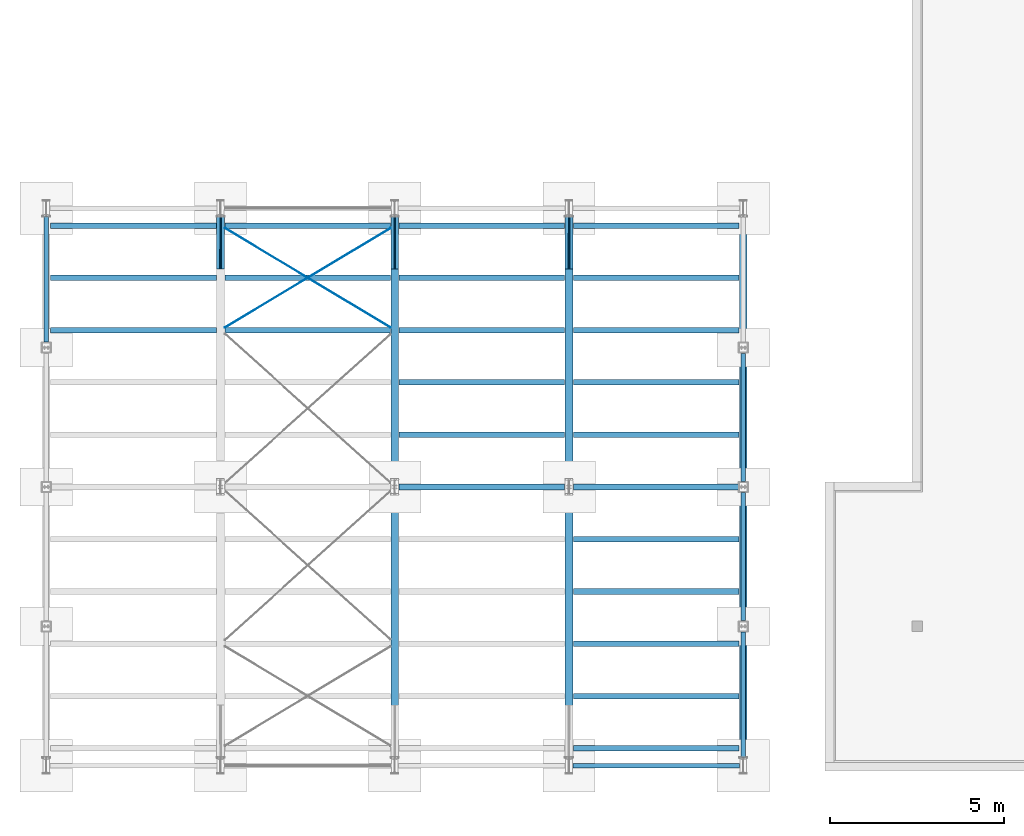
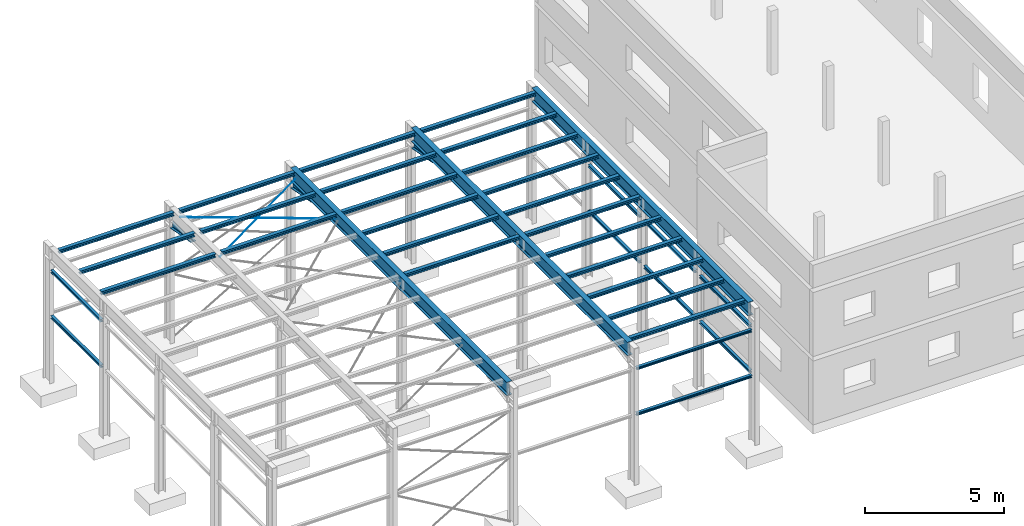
# Not in any storey, part 4 of 50: 38 beams, 3 members, 23 openings.
"""IFC4 model written with IfcOpenShell, lengths in metres."""

import ifcopenshell
import ifcopenshell.guid

model = None  # the IFC model being written
_history = None  # IfcOwnerHistory: only IFC2X3 demands one
_inside = {}  # id of a spatial element -> (the spatial element, [elements in it])
_under = {}  # id of a project, library or spatial element -> (it, [spatial elements below it])
_declared = {}  # id of a project -> (the project, [libraries it declares])
_typed = {}  # id of a type object -> (the type object, [elements of that type])
_made_of = {}  # id of a material, layer set ... -> (it, [elements and type objects made of it])


def new_model(schema):
    """Start an empty IFC model of exactly this schema.

    Asked for "IFC4X3", IfcOpenShell would pick the latest addendum, in which some entities
    have other attributes; the version numbers below select the first issue.
    IFC2X3 requires an IfcOwnerHistory on every rooted entity: one is made here for all.
    """
    global model, _history
    if schema == "IFC4X3":
        model = ifcopenshell.file(schema_version=(4, 3, 0, 0))
    else:
        model = ifcopenshell.file(schema=schema)
    _inside.clear()
    _under.clear()
    _declared.clear()
    _typed.clear()
    _made_of.clear()
    _history = None
    if model.schema == "IFC2X3":
        org = make("IfcOrganization", Name="unknown")
        user = make(
            "IfcPersonAndOrganization",
            ThePerson=make("IfcPerson", FamilyName="unknown"),
            TheOrganization=org,
        )
        app = make(
            "IfcApplication",
            ApplicationDeveloper=org,
            Version="unknown",
            ApplicationFullName="unknown",
            ApplicationIdentifier="unknown",
        )
        _history = make(
            "IfcOwnerHistory",
            OwningUser=user,
            OwningApplication=app,
            ChangeAction="ADDED",
            CreationDate=0,
        )
    return model


def make(cls, **values):
    """One entity of the class cls with the attributes given. An attribute that is None is left unset."""
    return model.create_entity(
        cls, **{name: value for name, value in values.items() if value is not None}
    )


def entity(cls, *values):
    """Any entity or typed value of the class cls, its attributes in the order of the schema. None: left unset."""
    e = model.create_entity(cls)
    for i, value in enumerate(values):
        if value is not None:
            e[i] = value
    return e


def rooted(cls, **values):
    """An entity with a GlobalId (a new one), such as an element, a storey or a relation."""
    return make(cls, GlobalId=ifcopenshell.guid.new(), OwnerHistory=_history, **values)


def si_unit(unit_type, name, prefix=None):
    """IfcSIUnit, for example si_unit("LENGTHUNIT", "METRE", prefix="MILLI")."""
    return make("IfcSIUnit", UnitType=unit_type, Prefix=prefix, Name=name)


def converted_unit(unit_type, name, factor, base, dimensions=None, offset=None):
    """IfcConversionBasedUnit, such as the inch: factor (a typed value) times the base unit."""
    return make(
        "IfcConversionBasedUnit"
        if offset is None
        else "IfcConversionBasedUnitWithOffset",
        ConversionOffset=offset,
        Dimensions=None
        if dimensions is None
        else entity("IfcDimensionalExponents", *dimensions),
        UnitType=unit_type,
        Name=name,
        ConversionFactor=make(
            "IfcMeasureWithUnit", ValueComponent=factor, UnitComponent=base
        ),
    )


def derived_unit(unit_type, elements):
    """IfcDerivedUnit: a product of units, each with its exponent."""
    return make(
        "IfcDerivedUnit",
        Elements=[
            make("IfcDerivedUnitElement", Unit=unit, Exponent=power)
            for unit, power in elements
        ],
        UnitType=unit_type,
    )


def assignment(units):
    """IfcUnitAssignment: the units of a project."""
    return None if units is None else make("IfcUnitAssignment", Units=units)


def point(xyz):
    """IfcCartesianPoint."""
    return None if xyz is None else make("IfcCartesianPoint", Coordinates=xyz)


def direction(xyz):
    """IfcDirection."""
    return None if xyz is None else make("IfcDirection", DirectionRatios=xyz)


def frame(location, z_axis=None, x_axis=None):
    """IfcAxis2Placement3D, a coordinate frame: its origin and axes. An axis left out is left unset."""
    return make(
        "IfcAxis2Placement3D",
        Location=point(location),
        Axis=direction(z_axis),
        RefDirection=direction(x_axis),
    )


def frame_2d(location, x_axis=None):
    """IfcAxis2Placement2D, a coordinate frame in the plane: its origin and x axis."""
    return make(
        "IfcAxis2Placement2D", Location=point(location), RefDirection=direction(x_axis)
    )


def origin():
    """The frame at (0, 0, 0) with its axes left unset."""
    return frame((0.0, 0.0, 0.0))


def origin_2d():
    """The frame at (0, 0) in the plane with its x axis left unset."""
    return frame_2d((0.0, 0.0))


def place(relative_to, where):
    """IfcLocalPlacement: puts the frame where relative to a parent placement (None: the world)."""
    return make(
        "IfcLocalPlacement", PlacementRelTo=relative_to, RelativePlacement=where
    )


def context(
    kind, dimensions, precision=None, world=None, true_north=None, identifier=None
):
    """IfcGeometricRepresentationContext, for example the 3D "Model" context."""
    return make(
        "IfcGeometricRepresentationContext",
        ContextIdentifier=identifier,
        ContextType=kind,
        CoordinateSpaceDimension=dimensions,
        Precision=precision,
        WorldCoordinateSystem=world,
        TrueNorth=true_north,
    )


def subcontext(parent, identifier, kind, view, scale=None):
    """IfcGeometricRepresentationSubContext, for example "Body" below "Model"."""
    return make(
        "IfcGeometricRepresentationSubContext",
        ContextIdentifier=identifier,
        ContextType=kind,
        ParentContext=parent,
        TargetScale=scale,
        TargetView=view,
    )


def project(units=None, contexts=None):
    """IfcProject with its units and contexts."""
    return rooted(
        "IfcProject",
        Name="project",
        RepresentationContexts=contexts,
        UnitsInContext=assignment(units),
    )


def spatial(cls, under=None, at=None, **own):
    """A site, building, storey or space (cls), placed at a placement, below another one or the project."""
    s = rooted(cls, ObjectPlacement=at, **own)
    if under is not None:
        _under.setdefault(under.id(), (under, []))[1].append(s)
    return s


def polyline(points):
    """IfcPolyline through the points."""
    return make("IfcPolyline", Points=[point(p) for p in points])


def point_list(points):
    """IfcCartesianPointList2D or 3D."""
    cls = (
        "IfcCartesianPointList2D" if len(points[0]) == 2 else "IfcCartesianPointList3D"
    )
    return make(cls, CoordList=points)


def line(*indices):
    """IfcLineIndex: a straight run through numbered points of an indexed curve."""
    return model.create_entity("IfcLineIndex", indices)


def arc(*indices):
    """IfcArcIndex: an arc through three numbered points of an indexed curve."""
    return model.create_entity("IfcArcIndex", indices)


def indexed_curve(points, segments=None, self_intersect=None):
    """IfcIndexedPolyCurve: lines and arcs through numbered points (the first is 1)."""
    return make(
        "IfcIndexedPolyCurve",
        Points=point_list(points),
        Segments=segments,
        SelfIntersect=self_intersect,
    )


def profile(cls, at=None, kind="AREA", **sizes):
    """A parametric profile (cls). Its sizes go by their IFC names, for example OverallWidth=200.0."""
    return make(cls, ProfileType=kind, Position=at, **sizes)


def circle(**sizes):
    """IfcCircleProfileDef."""
    return profile("IfcCircleProfileDef", **sizes)


def i_section(**sizes):
    """IfcIShapeProfileDef."""
    return profile("IfcIShapeProfileDef", **sizes)


def outline(outer, holes=None, kind="AREA"):
    """IfcArbitraryClosedProfileDef: a profile drawn as a closed curve; with holes, ...WithVoids."""
    if holes is None:
        return make("IfcArbitraryClosedProfileDef", ProfileType=kind, OuterCurve=outer)
    return make(
        "IfcArbitraryProfileDefWithVoids",
        ProfileType=kind,
        OuterCurve=outer,
        InnerCurves=holes,
    )


def extrude(swept, where, along, depth):
    """IfcExtrudedAreaSolid: the profile swept, set in the frame where, extruded along a direction by depth."""
    return make(
        "IfcExtrudedAreaSolid",
        SweptArea=swept,
        Position=where,
        ExtrudedDirection=direction(along),
        Depth=depth,
    )


def clip(a, b, op="DIFFERENCE"):
    """IfcBooleanClippingResult: the solid a cut by the half space b."""
    return make(
        "IfcBooleanClippingResult", Operator=op, FirstOperand=a, SecondOperand=b
    )


def halfspace(plane, agree):
    """IfcHalfSpaceSolid: all space on one side of the plane z = 0 of the frame plane."""
    return make(
        "IfcHalfSpaceSolid",
        BaseSurface=make("IfcPlane", Position=plane),
        AgreementFlag=agree,
    )


def shape(context_of_items, identifier, shape_type, items):
    """IfcShapeRepresentation: the items that make up one representation, for example the "Body"."""
    return make(
        "IfcShapeRepresentation",
        ContextOfItems=context_of_items,
        RepresentationIdentifier=identifier,
        RepresentationType=shape_type,
        Items=items,
    )


def source(mapping_origin, context_of_items, identifier, shape_type, items):
    """IfcRepresentationMap: a shape defined once, which mapped items show again and again."""
    return make(
        "IfcRepresentationMap",
        MappingOrigin=mapping_origin,
        MappedRepresentation=shape(context_of_items, identifier, shape_type, items),
    )


def transform(
    local_origin,
    x_axis=None,
    y_axis=None,
    z_axis=None,
    scale=None,
    scale2=None,
    scale3=None,
    uniform=True,
):
    """IfcCartesianTransformationOperator3D, or its non-uniform kind. x_axis, y_axis, z_axis: its Axis1, 2, 3."""
    if uniform:
        return make(
            "IfcCartesianTransformationOperator3D",
            Axis1=direction(x_axis),
            Axis2=direction(y_axis),
            LocalOrigin=point(local_origin),
            Scale=scale,
            Axis3=direction(z_axis),
        )
    return make(
        "IfcCartesianTransformationOperator3DnonUniform",
        Axis1=direction(x_axis),
        Axis2=direction(y_axis),
        LocalOrigin=point(local_origin),
        Scale=scale,
        Axis3=direction(z_axis),
        Scale2=scale2,
        Scale3=scale3,
    )


def mapped(mapping_source, mapping_target):
    """IfcMappedItem: shows the shape of a source again, moved by a transform."""
    return make(
        "IfcMappedItem", MappingSource=mapping_source, MappingTarget=mapping_target
    )


def material(Name=None, Category=None):
    """IfcMaterial."""
    return make("IfcMaterial", Name=Name, Category=Category)


def made_of(thing, what):
    """Note that an element or type object is made of a material, layer set ...; save() writes the relation."""
    if what is not None:
        _made_of.setdefault(what.id(), (what, []))[1].append(thing)
    return thing


def type_object(cls, material=None, **own):
    """A type object (cls), such as IfcWallType, which elements share."""
    return made_of(rooted(cls, **own), material)


def type_shapes(of_type, sources):
    """Give a type object the sources (RepresentationMaps) that its elements show as mapped items."""
    of_type.RepresentationMaps = sources


def element(
    cls,
    number,
    at=None,
    inside=None,
    cuts=None,
    type_object=None,
    material=None,
    context=None,
    identifier="Body",
    shape_type=None,
    held_by="IfcProductDefinitionShape",
    body=None,
    shapes=None,
    **own,
):
    """One element of the class cls, such as IfcWall. Its Tag is "e" and its number.

    at: its placement. inside: the storey or other place that contains it. cuts: it is an
    opening in that element (IfcRelVoidsElement). A single representation is given by context,
    identifier, shape_type and body (its items); several are given by shapes. held_by: the class
    of the entity that holds the representations. save() writes the other relations.
    """
    e = rooted(cls, Tag="e%d" % number, ObjectPlacement=at, **own)
    if body is not None:
        shapes = [shape(context, identifier, shape_type, body)]
    if shapes is not None:
        e.Representation = make(held_by, Representations=shapes)
    if inside is not None:
        _inside.setdefault(inside.id(), (inside, []))[1].append(e)
    if cuts is not None:
        rooted(
            "IfcRelVoidsElement", RelatingBuildingElement=cuts, RelatedOpeningElement=e
        )
    if type_object is not None:
        _typed.setdefault(type_object.id(), (type_object, []))[1].append(e)
    return made_of(e, material)


def aggregate(whole, parts):
    """IfcRelAggregates: a whole, such as a stair, and the parts it consists of."""
    return rooted("IfcRelAggregates", RelatingObject=whole, RelatedObjects=parts)


def save(model, path):
    """Write the relations noted so far, then the file.

    IfcRelAggregates (storeys below a building ...), IfcRelContainedInSpatialStructure (elements
    in a storey), IfcRelDefinesByType, IfcRelAssociatesMaterial and IfcRelDeclares: one each for
    every whole, place, type object, material and project.
    """
    for whole, parts in _under.values():
        aggregate(whole, parts)
    for where, things in _inside.values():
        rooted(
            "IfcRelContainedInSpatialStructure",
            RelatedElements=things,
            RelatingStructure=where,
        )
    for kind, things in _typed.values():
        rooted("IfcRelDefinesByType", RelatedObjects=things, RelatingType=kind)
    for what, things in _made_of.values():
        rooted("IfcRelAssociatesMaterial", RelatedObjects=things, RelatingMaterial=what)
    for by, libraries in _declared.values():
        rooted("IfcRelDeclares", RelatingContext=by, RelatedDefinitions=libraries)
    model.write(path)


model = new_model("IFC4")

# Units and contexts
model_context = context("Model", 3, precision=1e-05, world=origin(), true_north=direction((6.123233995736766e-17, 1.0)))
body_context = subcontext(model_context, "Body", "Model", "MODEL_VIEW")
ifc_project = project(units=[si_unit("LENGTHUNIT", "METRE"), si_unit("AREAUNIT", "SQUARE_METRE"), converted_unit("PLANEANGLEUNIT", "DEGREE", entity("IfcPlaneAngleMeasure", 0.017453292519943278), si_unit("PLANEANGLEUNIT", "RADIAN"), dimensions=[0, 0, 0, 0, 0, 0, 0]), si_unit("VOLUMEUNIT", "CUBIC_METRE"), derived_unit("THERMALTRANSMITTANCEUNIT", [(si_unit("MASSUNIT", "GRAM", prefix="KILO"), 1), (si_unit("THERMODYNAMICTEMPERATUREUNIT", "KELVIN"), -1), (si_unit("TIMEUNIT", "SECOND"), -3)])], contexts=[model_context])

# Site
site_placement = place(None, origin())
site = spatial("IfcSite", under=ifc_project, at=site_placement, Name="Default", CompositionType="ELEMENT")

# Beams
ifc_material = material(Name="Metall - Baustahl S235", Category="Metall")
beam_type_1 = type_object("IfcBeamType", Name="HEA Träger:HEA 120", PredefinedType="BEAM", material=ifc_material)
shared_shape_1 = source(origin(), body_context, "Body", "SweptSolid", [
    extrude(outline(indexed_curve([(-0.060000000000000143, -0.04899999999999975), (-0.060000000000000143, -0.05700000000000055), (0.06000000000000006, -0.05700000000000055), (0.06000000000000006, -0.04899999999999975), (0.01449999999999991, -0.04899999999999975), (0.006014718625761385, -0.04548528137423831), (0.002499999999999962, -0.036999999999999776), (0.002499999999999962, 0.037000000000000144), (0.00601471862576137, 0.04548528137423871), (0.014499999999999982, 0.049000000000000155), (0.06000000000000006, 0.049000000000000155), (0.06000000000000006, 0.05699999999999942), (-0.05999999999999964, 0.05699999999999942), (-0.05999999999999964, 0.049000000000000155), (-0.014500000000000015, 0.049000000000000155), (-0.0060147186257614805, 0.04548528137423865), (-0.002500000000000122, 0.03700000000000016), (-0.002500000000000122, -0.03699999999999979), (-0.006014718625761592, -0.045485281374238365), (-0.014500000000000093, -0.04899999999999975)], segments=[line(1, 2, 3, 4, 5), arc(5, 6, 7), line(7, 8), arc(8, 9, 10), line(10, 11, 12, 13, 14, 15), arc(15, 16, 17), line(17, 18), arc(18, 19, 20), line(20, 1)], self_intersect=False)), frame((-2.392300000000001, 0.0, 0.0), z_axis=(-1.0, 0.0, 0.0), x_axis=(0.0, -1.0, 0.0)), (0.0, 0.0, -1.0), 4.784600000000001),
])
type_shapes(beam_type_1, [shared_shape_1])
for number, where in (
    (1, (20.690144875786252, 1.9297675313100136, 2.9429999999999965)),
    (2, (20.690144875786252, 1.9297675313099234, 4.942999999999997)),
):
    element("IfcBeam", number, at=place(site_placement, frame(where)), inside=site, type_object=beam_type_1, material=ifc_material, Name="HEA Träger:HEA 120", ObjectType="HEA Träger:HEA 120", PredefinedType="BEAM", context=body_context, shape_type="MappedRepresentation", body=[
        mapped(shared_shape_1, transform((0.0, 0.0, 0.0), scale=1.0)),
    ])
beam_type_2 = type_object("IfcBeamType", Name="HEA Träger:HEA 120", PredefinedType="BEAM", material=ifc_material)
shared_shape_2 = source(origin(), body_context, "Body", "SweptSolid", [
    extrude(outline(indexed_curve([(-0.060000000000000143, -0.04899999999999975), (-0.060000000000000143, -0.05700000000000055), (0.06000000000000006, -0.05700000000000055), (0.06000000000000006, -0.04899999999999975), (0.01449999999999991, -0.04899999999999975), (0.006014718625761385, -0.04548528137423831), (0.002499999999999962, -0.036999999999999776), (0.002499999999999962, 0.037000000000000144), (0.00601471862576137, 0.04548528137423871), (0.014499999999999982, 0.049000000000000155), (0.06000000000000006, 0.049000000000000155), (0.06000000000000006, 0.05699999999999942), (-0.05999999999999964, 0.05699999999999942), (-0.05999999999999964, 0.049000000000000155), (-0.014500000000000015, 0.049000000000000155), (-0.0060147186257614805, 0.04548528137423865), (-0.002500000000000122, 0.03700000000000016), (-0.002500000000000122, -0.03699999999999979), (-0.006014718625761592, -0.045485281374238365), (-0.014500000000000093, -0.04899999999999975)], segments=[line(1, 2, 3, 4, 5), arc(5, 6, 7), line(7, 8), arc(8, 9, 10), line(10, 11, 12, 13, 14, 15), arc(15, 16, 17), line(17, 18), arc(18, 19, 20), line(20, 1)], self_intersect=False)), frame((-1.7623000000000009, 0.0, 0.0), z_axis=(-1.0, 0.0, 0.0), x_axis=(0.0, -1.0, 0.0)), (0.0, 0.0, -1.0), 3.5996000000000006),
])
type_shapes(beam_type_2, [shared_shape_2])
for number, where, z_axis, x_axis in (
    (3, (23.190144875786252, 3.929767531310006, 2.9429999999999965), (0.0, 0.0, 1.0), (0.0, 1.0, 0.0)),
    (4, (3.1901448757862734, 15.929767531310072, 2.9429999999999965), (0.0, 0.0, 1.0), (0.0, -1.0, 0.0)),
    (5, (3.1901448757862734, 15.929767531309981, 4.942999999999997), (0.0, 0.0, 1.0), (0.0, -1.0, 0.0)),
    (6, (23.190144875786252, 3.929767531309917, 4.942999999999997), (0.0, 0.0, 1.0), (0.0, 1.0, 0.0)),
):
    element("IfcBeam", number, at=place(site_placement, frame(where, z_axis=z_axis, x_axis=x_axis)), inside=site, type_object=beam_type_2, material=ifc_material, Name="HEA Träger:HEA 120", ObjectType="HEA Träger:HEA 120", PredefinedType="BEAM", context=body_context, shape_type="MappedRepresentation", body=[
        mapped(shared_shape_2, transform((0.0, 0.0, 0.0), scale=1.0)),
    ])
beam_type_3 = type_object("IfcBeamType", Name="HEA Träger:HEA 120", PredefinedType="BEAM", material=ifc_material)
shared_shape_3 = source(origin(), body_context, "Body", "SweptSolid", [
    extrude(outline(indexed_curve([(-0.060000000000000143, -0.04899999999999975), (-0.060000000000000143, -0.05700000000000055), (0.06000000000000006, -0.05700000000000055), (0.06000000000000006, -0.04899999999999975), (0.01449999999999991, -0.04899999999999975), (0.006014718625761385, -0.04548528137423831), (0.002499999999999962, -0.036999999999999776), (0.002499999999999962, 0.037000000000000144), (0.00601471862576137, 0.04548528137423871), (0.014499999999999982, 0.049000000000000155), (0.06000000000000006, 0.049000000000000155), (0.06000000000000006, 0.05699999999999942), (-0.05999999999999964, 0.05699999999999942), (-0.05999999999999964, 0.049000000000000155), (-0.014500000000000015, 0.049000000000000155), (-0.0060147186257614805, 0.04548528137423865), (-0.002500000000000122, 0.03700000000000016), (-0.002500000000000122, -0.03699999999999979), (-0.006014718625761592, -0.045485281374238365), (-0.014500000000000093, -0.04899999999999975)], segments=[line(1, 2, 3, 4, 5), arc(5, 6, 7), line(7, 8), arc(8, 9, 10), line(10, 11, 12, 13, 14, 15), arc(15, 16, 17), line(17, 18), arc(18, 19, 20), line(20, 1)], self_intersect=False)), frame((-1.8372999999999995, 0.0, 0.0), z_axis=(-1.0, 0.0, 0.0), x_axis=(0.0, -1.0, 0.0)), (0.0, 0.0, -1.0), 3.6746000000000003),
])
type_shapes(beam_type_3, [shared_shape_3])
for number, where, z_axis, x_axis in (
    (7, (23.190144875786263, 7.929767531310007, 2.9429999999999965), (0.0, 0.0, 1.0), (0.0, 1.0, 0.0)),
    (8, (23.19014487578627, 11.92976753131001, 2.9429999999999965), (0.0, 0.0, 1.0), (0.0, 1.0, 0.0)),
    (9, (23.190144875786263, 7.929767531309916, 4.942999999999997), (0.0, 0.0, 1.0), (0.0, 1.0, 0.0)),
    (10, (23.190144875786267, 11.929767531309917, 4.942999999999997), (0.0, 0.0, 1.0), (0.0, 1.0, 0.0)),
):
    element("IfcBeam", number, at=place(site_placement, frame(where, z_axis=z_axis, x_axis=x_axis)), inside=site, type_object=beam_type_3, material=ifc_material, Name="HEA Träger:HEA 120", ObjectType="HEA Träger:HEA 120", PredefinedType="BEAM", context=body_context, shape_type="MappedRepresentation", body=[
        mapped(shared_shape_3, transform((0.0, 0.0, 0.0), scale=1.0)),
    ])
beam_type_4 = type_object("IfcBeamType", Name="HEA Träger:HEA 160", PredefinedType="JOIST", material=ifc_material)
shared_shape_4 = source(origin(), body_context, "Body", "SweptSolid", [
    extrude(outline(indexed_curve([(-0.08000000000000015, -0.06699999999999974), (-0.08000000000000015, -0.07600000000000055), (0.08000000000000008, -0.07600000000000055), (0.08000000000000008, -0.06699999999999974), (0.01799999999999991, -0.06699999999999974), (0.007393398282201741, -0.06260660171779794), (0.002999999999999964, -0.051999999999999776), (0.0029999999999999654, 0.05200000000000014), (0.0073933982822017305, 0.06260660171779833), (0.017999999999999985, 0.06700000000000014), (0.08000000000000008, 0.06700000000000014), (0.08000000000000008, 0.07599999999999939), (-0.07999999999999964, 0.07599999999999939), (-0.07999999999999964, 0.06700000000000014), (-0.017999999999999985, 0.06700000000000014), (-0.007393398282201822, 0.06260660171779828), (-0.0030000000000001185, 0.05200000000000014), (-0.0030000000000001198, -0.051999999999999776), (-0.007393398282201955, -0.062606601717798), (-0.018000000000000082, -0.06699999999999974)], segments=[line(1, 2, 3, 4, 5), arc(5, 6, 7), line(7, 8), arc(8, 9, 10), line(10, 11, 12, 13, 14, 15), arc(15, 16, 17), line(17, 18), arc(18, 19, 20), line(20, 1)], self_intersect=False)), frame((-2.377300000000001, 0.0, 0.0), z_axis=(-1.0, 0.0, 0.0), x_axis=(0.0, -1.0, 0.0)), (0.0, 0.0, -1.0), 4.754600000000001),
])
type_shapes(beam_type_4, [shared_shape_4])
for number, where in (
    (11, (20.690144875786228, 2.4297675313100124, 5.923999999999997)),
    (12, (20.69014487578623, 3.929767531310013, 5.923999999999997)),
    (13, (20.69014487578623, 5.429767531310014, 5.923999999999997)),
    (14, (20.69014487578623, 6.929767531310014, 5.923999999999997)),
    (15, (20.69014487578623, 8.429767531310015, 5.923999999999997)),
    (16, (15.690144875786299, 9.929767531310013, 5.923999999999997)),
    (17, (20.69014487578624, 9.929767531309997, 5.923999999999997)),
):
    element("IfcBeam", number, at=place(site_placement, frame(where)), inside=site, type_object=beam_type_4, material=ifc_material, Name="HEA Träger:HEA 160", ObjectType="HEA Träger:HEA 160", PredefinedType="JOIST", context=body_context, shape_type="MappedRepresentation", body=[
        mapped(shared_shape_4, transform((0.0, 0.0, 0.0), scale=1.0)),
    ])
beam_type_5 = type_object("IfcBeamType", Name="HEA Träger:HEA 160", PredefinedType="JOIST", material=ifc_material)
shared_shape_5 = source(origin(), body_context, "Body", "SweptSolid", [
    extrude(outline(indexed_curve([(0.06699999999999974, -0.08000000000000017), (0.07600000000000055, -0.08000000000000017), (0.07600000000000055, 0.08000000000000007), (0.06699999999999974, 0.08000000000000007), (0.06699999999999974, 0.017999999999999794), (0.06260660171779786, 0.0073933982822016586), (0.051999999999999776, 0.0029999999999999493), (-0.052000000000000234, 0.0029999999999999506), (-0.0626066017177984, 0.007393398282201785), (-0.06700000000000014, 0.017999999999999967), (-0.06700000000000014, 0.08000000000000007), (-0.07599999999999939, 0.08000000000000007), (-0.07599999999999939, -0.07999999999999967), (-0.06700000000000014, -0.07999999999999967), (-0.06700000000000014, -0.017999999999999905), (-0.06260660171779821, -0.007393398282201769), (-0.05200000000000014, -0.003000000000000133), (0.05199999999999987, -0.0030000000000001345), (0.06260660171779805, -0.007393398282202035), (0.06699999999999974, -0.018000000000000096)], segments=[line(1, 2, 3, 4, 5), arc(5, 6, 7), line(7, 8), arc(8, 9, 10), line(10, 11, 12, 13, 14, 15), arc(15, 16, 17), line(17, 18), arc(18, 19, 20), line(20, 1)], self_intersect=False)), frame((-2.377300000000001, 0.0, 0.0), z_axis=(1.0, 0.0, 0.0), x_axis=(0.0, 0.0, -1.0)), (0.0, 0.0, 1.0), 4.7546),
])
type_shapes(beam_type_5, [shared_shape_5])
for number, where in (
    (18, (5.690144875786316, 17.429767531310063, 5.923999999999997)),
    (19, (10.690144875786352, 17.429767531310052, 5.923999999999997)),
    (20, (15.690144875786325, 17.429767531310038, 5.923999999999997)),
    (21, (20.690144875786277, 17.42976753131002, 5.923999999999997)),
    (22, (5.69014487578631, 15.929767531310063, 5.923999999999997)),
    (23, (10.690144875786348, 15.92976753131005, 5.923999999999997)),
    (24, (15.690144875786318, 15.929767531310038, 5.923999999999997)),
    (25, (20.690144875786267, 15.929767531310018, 5.923999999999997)),
    (26, (5.690144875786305, 14.429767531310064, 5.923999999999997)),
    (27, (10.690144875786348, 14.429767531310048, 5.923999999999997)),
    (28, (15.690144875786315, 14.429767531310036, 5.923999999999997)),
    (29, (20.69014487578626, 14.429767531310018, 5.923999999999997)),
    (30, (15.69014487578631, 12.929767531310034, 5.923999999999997)),
    (31, (20.690144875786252, 12.929767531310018, 5.923999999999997)),
    (32, (15.690144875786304, 11.429767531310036, 5.923999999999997)),
    (33, (20.690144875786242, 11.429767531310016, 5.923999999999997)),
):
    element("IfcBeam", number, at=place(site_placement, frame(where)), inside=site, type_object=beam_type_5, material=ifc_material, Name="HEA Träger:HEA 160", ObjectType="HEA Träger:HEA 160", PredefinedType="JOIST", context=body_context, shape_type="MappedRepresentation", body=[
        mapped(shared_shape_5, transform((0.0, 0.0, 0.0), scale=1.0)),
    ])
beam_type_6 = type_object("IfcBeamType", Name="Rundstahl Träger:RB 20", PredefinedType="BEAM", material=ifc_material)
shared_shape_6 = source(origin(), body_context, "Body", "SweptSolid", [
    extrude(outline(indexed_curve([(-0.01, 1.6155445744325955e-17), (-7.370224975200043e-17, -0.010000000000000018), (0.01, -1.6155445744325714e-17), (1.3123993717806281e-17, 0.009999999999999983)], segments=[arc(1, 2, 3), arc(3, 4, 1)], self_intersect=False)), frame((-2.7691500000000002, 0.0, 0.0), z_axis=(1.0, 0.0, 0.0), x_axis=(0.0, 1.0, 0.0)), (0.0, 0.0, 1.0), 5.5383000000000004),
])
type_shapes(beam_type_6, [shared_shape_6])
beam_1_placement = place(site_placement, frame((10.690144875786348, 15.931178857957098, 5.699999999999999), z_axis=(0.0, 0.0, 1.0), x_axis=(0.8572793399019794, -0.5148515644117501, 0.0)))
element("IfcBeam", 34, at=beam_1_placement, inside=site, type_object=beam_type_6, material=ifc_material, Name="Rundstahl Träger:RB 20", ObjectType="Rundstahl Träger:RB 20", PredefinedType="BEAM", context=body_context, shape_type="MappedRepresentation", body=[
    mapped(shared_shape_6, transform((0.0, 0.0, 0.0), scale=1.0)),
])
beam_type_7 = type_object("IfcBeamType", Name="Rundstahl Träger:RB 20", PredefinedType="JOIST", material=ifc_material)
shared_shape_7 = source(origin(), body_context, "Body", "SweptSolid", [
    extrude(outline(indexed_curve([(-0.01, 1.6155445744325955e-17), (-7.21052415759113e-17, -0.010000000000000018), (0.01, -1.6155445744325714e-17), (1.4721001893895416e-17, 0.009999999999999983)], segments=[arc(1, 2, 3), arc(3, 4, 1)], self_intersect=False)), frame((-2.7657, 0.0, 0.0), z_axis=(1.0, 0.0, 0.0), x_axis=(0.0, 1.0, 0.0)), (0.0, 0.0, 1.0), 5.536900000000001),
])
type_shapes(beam_type_7, [shared_shape_7])
beam_2_placement = place(site_placement, frame((10.69249487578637, 15.931177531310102, 5.699999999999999), z_axis=(0.0, 0.0, 1.0), x_axis=(-0.8574929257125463, -0.5144957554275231, 0.0)))
element("IfcBeam", 35, at=beam_2_placement, inside=site, type_object=beam_type_7, material=ifc_material, Name="Rundstahl Träger:RB 20", ObjectType="Rundstahl Träger:RB 20", PredefinedType="JOIST", context=body_context, shape_type="MappedRepresentation", body=[
    mapped(shared_shape_7, transform((0.0, 0.0, 0.0), scale=1.0)),
])

# Beam, openings
beam_type_8 = type_object("IfcBeamType", Name="IPE Träger:IPE 600", PredefinedType="BEAM")
beam_3_placement = place(site_placement, frame((13.190144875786, 18.849298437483, 5.7), z_axis=(0.0, 1.0, 0.0), x_axis=(-1.0, 0.0, 0.0)))
beam_3 = element("IfcBeam", 36, at=beam_3_placement, inside=site, type_object=beam_type_8, material=ifc_material, Name="IPE Träger:IPE 600", ObjectType="IPE 600", context=model_context, shape_type="Clipping", body=[
    clip(clip(extrude(i_section(OverallWidth=0.22, OverallDepth=0.6, WebThickness=0.012, FlangeThickness=0.019, FilletRadius=0.024, at=origin_2d()), origin(), (0.0, 0.0, -1.0), 17.839061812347), halfspace(frame((13.190144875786, -5.7, -1.1595319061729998), z_axis=(0.0, 0.0, -1.0), x_axis=(-1.0, 0.0, 0.0)), True)), halfspace(frame((13.190144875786, -5.7, -16.679529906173), z_axis=(0.0, 0.0, 1.0), x_axis=(1.0, 0.0, 0.0)), True)),
])
opening_1_placement = place(beam_3_placement, frame((0.0, -0.3005, -8.919530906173), z_axis=(0.0, 1.0, 0.0), x_axis=(0.0, 0.0, 1.0)))
element("IfcOpeningElement", 37, at=opening_1_placement, cuts=beam_3, ObjectType="Opening", context=model_context, shape_type="SweptSolid", body=[
    extrude(circle(Radius=0.009000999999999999, at=frame_2d((0.0375, 0.05), x_axis=(1.0, 0.0))), origin(), (0.0, 0.0, 1.0), 0.02),
])
opening_2_placement = place(beam_3_placement, frame((0.0, -0.3005, -8.919530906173), z_axis=(0.0, 1.0, 0.0), x_axis=(0.0, 0.0, 1.0)))
element("IfcOpeningElement", 38, at=opening_2_placement, cuts=beam_3, ObjectType="Opening", context=model_context, shape_type="SweptSolid", body=[
    extrude(circle(Radius=0.009000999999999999, at=frame_2d((-0.0375, 0.05), x_axis=(1.0, 0.0))), origin(), (0.0, 0.0, 1.0), 0.02),
])
opening_3_placement = place(beam_3_placement, frame((0.0, -0.3005, -8.919530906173), z_axis=(0.0, 1.0, 0.0), x_axis=(0.0, 0.0, 1.0)))
element("IfcOpeningElement", 39, at=opening_3_placement, cuts=beam_3, ObjectType="Opening", context=model_context, shape_type="SweptSolid", body=[
    extrude(circle(Radius=0.009000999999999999, at=frame_2d((0.0375, -0.05), x_axis=(1.0, 0.0))), origin(), (0.0, 0.0, 1.0), 0.02),
])
opening_4_placement = place(beam_3_placement, frame((0.0, -0.3005, -8.919530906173), z_axis=(0.0, 1.0, 0.0), x_axis=(0.0, 0.0, 1.0)))
element("IfcOpeningElement", 40, at=opening_4_placement, cuts=beam_3, ObjectType="Opening", context=model_context, shape_type="SweptSolid", body=[
    extrude(circle(Radius=0.009000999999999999, at=frame_2d((-0.0375, -0.05), x_axis=(1.0, 0.0))), origin(), (0.0, 0.0, 1.0), 0.02),
])

beam_4_placement = place(site_placement, frame((18.190144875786, 18.849298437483, 5.7), z_axis=(0.0, 1.0, 0.0), x_axis=(-1.0, 0.0, 0.0)))
beam_4 = element("IfcBeam", 41, at=beam_4_placement, inside=site, type_object=beam_type_8, material=ifc_material, Name="IPE Träger:IPE 600", ObjectType="IPE 600", context=model_context, shape_type="Clipping", body=[
    clip(clip(extrude(i_section(OverallWidth=0.22, OverallDepth=0.6, WebThickness=0.012, FlangeThickness=0.019, FilletRadius=0.024, at=origin_2d()), origin(), (0.0, 0.0, -1.0), 17.839061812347), halfspace(frame((18.190144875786, -5.7, -1.1595319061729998), z_axis=(0.0, 0.0, -1.0), x_axis=(-1.0, 0.0, 0.0)), True)), halfspace(frame((18.190144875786, -5.7, -16.679529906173), z_axis=(0.0, 0.0, 1.0), x_axis=(1.0, 0.0, 0.0)), True)),
])
opening_5_placement = place(beam_4_placement, frame((0.0, -0.3005, -8.919530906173), z_axis=(0.0, 1.0, 0.0), x_axis=(0.0, 0.0, 1.0)))
element("IfcOpeningElement", 42, at=opening_5_placement, cuts=beam_4, ObjectType="Opening", context=model_context, shape_type="SweptSolid", body=[
    extrude(circle(Radius=0.009000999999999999, at=frame_2d((0.0375, 0.05), x_axis=(1.0, 0.0))), origin(), (0.0, 0.0, 1.0), 0.02),
])
opening_6_placement = place(beam_4_placement, frame((0.0, -0.3005, -8.919530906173), z_axis=(0.0, 1.0, 0.0), x_axis=(0.0, 0.0, 1.0)))
element("IfcOpeningElement", 43, at=opening_6_placement, cuts=beam_4, ObjectType="Opening", context=model_context, shape_type="SweptSolid", body=[
    extrude(circle(Radius=0.009000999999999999, at=frame_2d((-0.0375, 0.05), x_axis=(1.0, 0.0))), origin(), (0.0, 0.0, 1.0), 0.02),
])
opening_7_placement = place(beam_4_placement, frame((0.0, -0.3005, -8.919530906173), z_axis=(0.0, 1.0, 0.0), x_axis=(0.0, 0.0, 1.0)))
element("IfcOpeningElement", 44, at=opening_7_placement, cuts=beam_4, ObjectType="Opening", context=model_context, shape_type="SweptSolid", body=[
    extrude(circle(Radius=0.009000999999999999, at=frame_2d((0.0375, -0.05), x_axis=(1.0, 0.0))), origin(), (0.0, 0.0, 1.0), 0.02),
])
opening_8_placement = place(beam_4_placement, frame((0.0, -0.3005, -8.919530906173), z_axis=(0.0, 1.0, 0.0), x_axis=(0.0, 0.0, 1.0)))
element("IfcOpeningElement", 45, at=opening_8_placement, cuts=beam_4, ObjectType="Opening", context=model_context, shape_type="SweptSolid", body=[
    extrude(circle(Radius=0.009000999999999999, at=frame_2d((-0.0375, -0.05), x_axis=(1.0, 0.0))), origin(), (0.0, 0.0, 1.0), 0.02),
])

beam_5_placement = place(site_placement, frame((23.190144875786, 18.849298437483, 5.7), z_axis=(0.0, 1.0, 0.0), x_axis=(-1.0, 0.0, 0.0)))
beam_5 = element("IfcBeam", 46, at=beam_5_placement, inside=site, type_object=beam_type_8, material=ifc_material, Name="IPE Träger:IPE 600", ObjectType="IPE 600", context=model_context, shape_type="Clipping", body=[
    clip(clip(extrude(i_section(OverallWidth=0.22, OverallDepth=0.6, WebThickness=0.012, FlangeThickness=0.019, FilletRadius=0.024, at=origin_2d()), origin(), (0.0, 0.0, -1.0), 17.839061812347), halfspace(frame((23.190144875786, -5.7, -16.679529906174), z_axis=(0.0, 0.0, 1.0), x_axis=(1.0, 0.0, 0.0)), True)), halfspace(frame((23.190144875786, -5.7, -1.159531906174), z_axis=(0.0, 0.0, -1.0), x_axis=(-1.0, 0.0, 0.0)), True)),
])
opening_9_placement = place(beam_5_placement, frame((0.0, -0.3005, -12.919530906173), z_axis=(0.0, 1.0, 0.0), x_axis=(0.0, 0.0, -1.0)))
element("IfcOpeningElement", 47, at=opening_9_placement, cuts=beam_5, ObjectType="Opening", context=model_context, shape_type="SweptSolid", body=[
    extrude(circle(Radius=0.009000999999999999, at=frame_2d((0.0375, 0.05), x_axis=(1.0, 0.0))), origin(), (0.0, 0.0, 1.0), 0.02),
])
opening_10_placement = place(beam_5_placement, frame((0.0, -0.3005, -12.919530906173), z_axis=(0.0, 1.0, 0.0), x_axis=(0.0, 0.0, -1.0)))
element("IfcOpeningElement", 48, at=opening_10_placement, cuts=beam_5, ObjectType="Opening", context=model_context, shape_type="SweptSolid", body=[
    extrude(circle(Radius=0.009000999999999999, at=frame_2d((-0.0375, 0.05), x_axis=(1.0, 0.0))), origin(), (0.0, 0.0, 1.0), 0.02),
])
opening_11_placement = place(beam_5_placement, frame((0.0, -0.3005, -12.919530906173), z_axis=(0.0, 1.0, 0.0), x_axis=(0.0, 0.0, -1.0)))
element("IfcOpeningElement", 49, at=opening_11_placement, cuts=beam_5, ObjectType="Opening", context=model_context, shape_type="SweptSolid", body=[
    extrude(circle(Radius=0.009000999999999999, at=frame_2d((0.0375, -0.05), x_axis=(1.0, 0.0))), origin(), (0.0, 0.0, 1.0), 0.02),
])
opening_12_placement = place(beam_5_placement, frame((0.0, -0.3005, -12.919530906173), z_axis=(0.0, 1.0, 0.0), x_axis=(0.0, 0.0, -1.0)))
element("IfcOpeningElement", 50, at=opening_12_placement, cuts=beam_5, ObjectType="Opening", context=model_context, shape_type="SweptSolid", body=[
    extrude(circle(Radius=0.009000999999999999, at=frame_2d((-0.0375, -0.05), x_axis=(1.0, 0.0))), origin(), (0.0, 0.0, 1.0), 0.02),
])
opening_13_placement = place(beam_5_placement, frame((0.0, -0.3005, -4.919530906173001), z_axis=(0.0, 1.0, 0.0), x_axis=(0.0, 0.0, 1.0)))
element("IfcOpeningElement", 51, at=opening_13_placement, cuts=beam_5, ObjectType="Opening", context=model_context, shape_type="SweptSolid", body=[
    extrude(circle(Radius=0.009000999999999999, at=frame_2d((0.0375, 0.05), x_axis=(1.0, 0.0))), origin(), (0.0, 0.0, 1.0), 0.02),
])
opening_14_placement = place(beam_5_placement, frame((0.0, -0.3005, -4.919530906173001), z_axis=(0.0, 1.0, 0.0), x_axis=(0.0, 0.0, 1.0)))
element("IfcOpeningElement", 52, at=opening_14_placement, cuts=beam_5, ObjectType="Opening", context=model_context, shape_type="SweptSolid", body=[
    extrude(circle(Radius=0.009000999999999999, at=frame_2d((-0.0375, 0.05), x_axis=(1.0, 0.0))), origin(), (0.0, 0.0, 1.0), 0.02),
])
opening_15_placement = place(beam_5_placement, frame((0.0, -0.3005, -4.919530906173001), z_axis=(0.0, 1.0, 0.0), x_axis=(0.0, 0.0, 1.0)))
element("IfcOpeningElement", 53, at=opening_15_placement, cuts=beam_5, ObjectType="Opening", context=model_context, shape_type="SweptSolid", body=[
    extrude(circle(Radius=0.009000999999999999, at=frame_2d((0.0375, -0.05), x_axis=(1.0, 0.0))), origin(), (0.0, 0.0, 1.0), 0.02),
])
opening_16_placement = place(beam_5_placement, frame((0.0, -0.3005, -4.919530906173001), z_axis=(0.0, 1.0, 0.0), x_axis=(0.0, 0.0, 1.0)))
element("IfcOpeningElement", 54, at=opening_16_placement, cuts=beam_5, ObjectType="Opening", context=model_context, shape_type="SweptSolid", body=[
    extrude(circle(Radius=0.009000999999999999, at=frame_2d((-0.0375, -0.05), x_axis=(1.0, 0.0))), origin(), (0.0, 0.0, 1.0), 0.02),
])
opening_17_placement = place(beam_5_placement, frame((0.0, -0.3005, -8.919530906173), z_axis=(0.0, 1.0, 0.0), x_axis=(0.0, 0.0, -1.0)))
element("IfcOpeningElement", 55, at=opening_17_placement, cuts=beam_5, ObjectType="Opening", context=model_context, shape_type="SweptSolid", body=[
    extrude(circle(Radius=0.009000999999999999, at=frame_2d((0.0375, 0.05), x_axis=(1.0, 0.0))), origin(), (0.0, 0.0, 1.0), 0.02),
])
opening_18_placement = place(beam_5_placement, frame((0.0, -0.3005, -8.919530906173), z_axis=(0.0, 1.0, 0.0), x_axis=(0.0, 0.0, -1.0)))
element("IfcOpeningElement", 56, at=opening_18_placement, cuts=beam_5, ObjectType="Opening", context=model_context, shape_type="SweptSolid", body=[
    extrude(circle(Radius=0.009000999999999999, at=frame_2d((-0.0375, 0.05), x_axis=(1.0, 0.0))), origin(), (0.0, 0.0, 1.0), 0.02),
])
opening_19_placement = place(beam_5_placement, frame((0.0, -0.3005, -8.919530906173), z_axis=(0.0, 1.0, 0.0), x_axis=(0.0, 0.0, -1.0)))
element("IfcOpeningElement", 57, at=opening_19_placement, cuts=beam_5, ObjectType="Opening", context=model_context, shape_type="SweptSolid", body=[
    extrude(circle(Radius=0.009000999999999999, at=frame_2d((0.0375, -0.05), x_axis=(1.0, 0.0))), origin(), (0.0, 0.0, 1.0), 0.02),
])
opening_20_placement = place(beam_5_placement, frame((0.0, -0.3005, -8.919530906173), z_axis=(0.0, 1.0, 0.0), x_axis=(0.0, 0.0, -1.0)))
element("IfcOpeningElement", 58, at=opening_20_placement, cuts=beam_5, ObjectType="Opening", context=model_context, shape_type="SweptSolid", body=[
    extrude(circle(Radius=0.009000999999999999, at=frame_2d((-0.0375, -0.05), x_axis=(1.0, 0.0))), origin(), (0.0, 0.0, 1.0), 0.02),
])

# Member, opening
member_1_placement = place(site_placement, frame((13.190144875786, 18.662352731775, 5.230050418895), z_axis=(0.0, 0.984238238, -0.176847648), x_axis=(-1.0, 0.0, 0.0)))
member_1 = element("IfcMember", 59, at=member_1_placement, inside=site, Name="Haunch", ObjectType="Haunch", context=model_context, shape_type="Clipping", body=[
    clip(clip(clip(extrude(i_section(OverallWidth=0.22, OverallDepth=0.6, WebThickness=0.012, FlangeThickness=0.019, FilletRadius=0.024, at=origin_2d()), origin(), (0.0, 0.0, -1.0), 7.830197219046), halfspace(frame((13.190144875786, -5.319615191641, -0.032334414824), z_axis=(0.0, -0.176847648, -0.984238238), x_axis=(-1.0, 0.0, 0.0)), True)), halfspace(frame((13.190144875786, -3.133123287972, -18.398256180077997), z_axis=(0.0, -0.984238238, 0.176847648), x_axis=(1.0, 0.0, 0.0)), True)), halfspace(frame((13.190144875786, -5.584886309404, -1.508689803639), z_axis=(0.0, 0.176847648, 0.984238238), x_axis=(1.0, 0.0, 0.0)), True)),
])
opening_21_placement = place(member_1_placement, frame((0.21009999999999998, -0.3, -0.9342564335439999), z_axis=(-1.0, 0.0, 0.0), x_axis=(0.0, 0.176847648, 0.984238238)))
element("IfcOpeningElement", 60, at=opening_21_placement, cuts=member_1, ObjectType="Opening", context=model_context, shape_type="SweptSolid", body=[
    extrude(outline(polyline([(1e-06, 0.30000099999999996), (-0.030002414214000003, 0.30000099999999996), (1e-06, 0.269997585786), (1e-06, 0.30000099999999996)])), origin(), (0.0, 0.0, 1.0), 0.42019999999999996),
])

member_2_placement = place(site_placement, frame((8.190144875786, 18.662352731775, 5.230050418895), z_axis=(0.0, 0.984238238, -0.176847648), x_axis=(-1.0, 0.0, 0.0)))
member_2 = element("IfcMember", 61, at=member_2_placement, inside=site, Name="Haunch", ObjectType="Haunch", context=model_context, shape_type="Clipping", body=[
    clip(clip(clip(extrude(i_section(OverallWidth=0.22, OverallDepth=0.6, WebThickness=0.012, FlangeThickness=0.019, FilletRadius=0.024, at=origin_2d()), origin(), (0.0, 0.0, -1.0), 7.830197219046), halfspace(frame((8.190144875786, -5.319615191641, -0.032334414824), z_axis=(0.0, -0.176847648, -0.984238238), x_axis=(-1.0, 0.0, 0.0)), True)), halfspace(frame((8.190144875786, -3.133123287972, -18.398256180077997), z_axis=(0.0, -0.984238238, 0.176847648), x_axis=(1.0, 0.0, 0.0)), True)), halfspace(frame((8.190144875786, -5.584886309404, -1.508689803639), z_axis=(0.0, 0.176847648, 0.984238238), x_axis=(1.0, 0.0, 0.0)), True)),
])
opening_22_placement = place(member_2_placement, frame((0.21009999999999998, -0.3, -0.9342564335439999), z_axis=(-1.0, 0.0, 0.0), x_axis=(0.0, 0.176847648, 0.984238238)))
element("IfcOpeningElement", 62, at=opening_22_placement, cuts=member_2, ObjectType="Opening", context=model_context, shape_type="SweptSolid", body=[
    extrude(outline(polyline([(1e-06, 0.30000099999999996), (-0.030002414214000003, 0.30000099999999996), (1e-06, 0.269997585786), (1e-06, 0.30000099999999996)])), origin(), (0.0, 0.0, 1.0), 0.42019999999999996),
])

member_3_placement = place(site_placement, frame((18.190144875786, 18.662352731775, 5.230050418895), z_axis=(0.0, 0.984238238, -0.176847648), x_axis=(-1.0, 0.0, 0.0)))
member_3 = element("IfcMember", 63, at=member_3_placement, inside=site, Name="Haunch", ObjectType="Haunch", context=model_context, shape_type="Clipping", body=[
    clip(clip(clip(extrude(i_section(OverallWidth=0.22, OverallDepth=0.6, WebThickness=0.012, FlangeThickness=0.019, FilletRadius=0.024, at=origin_2d()), origin(), (0.0, 0.0, -1.0), 7.830197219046), halfspace(frame((18.190144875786, -5.319615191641, -0.032334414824), z_axis=(0.0, -0.176847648, -0.984238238), x_axis=(-1.0, 0.0, 0.0)), True)), halfspace(frame((18.190144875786, -3.133123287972, -18.398256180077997), z_axis=(0.0, -0.984238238, 0.176847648), x_axis=(1.0, 0.0, 0.0)), True)), halfspace(frame((18.190144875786, -5.584886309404, -1.508689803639), z_axis=(0.0, 0.176847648, 0.984238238), x_axis=(1.0, 0.0, 0.0)), True)),
])
opening_23_placement = place(member_3_placement, frame((0.21009999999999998, -0.3, -0.9342564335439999), z_axis=(-1.0, 0.0, 0.0), x_axis=(0.0, 0.176847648, 0.984238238)))
element("IfcOpeningElement", 64, at=opening_23_placement, cuts=member_3, ObjectType="Opening", context=model_context, shape_type="SweptSolid", body=[
    extrude(outline(polyline([(1e-06, 0.30000099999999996), (-0.030002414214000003, 0.30000099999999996), (1e-06, 0.269997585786), (1e-06, 0.30000099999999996)])), origin(), (0.0, 0.0, 1.0), 0.42019999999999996),
])

save(model, "model.ifc")
